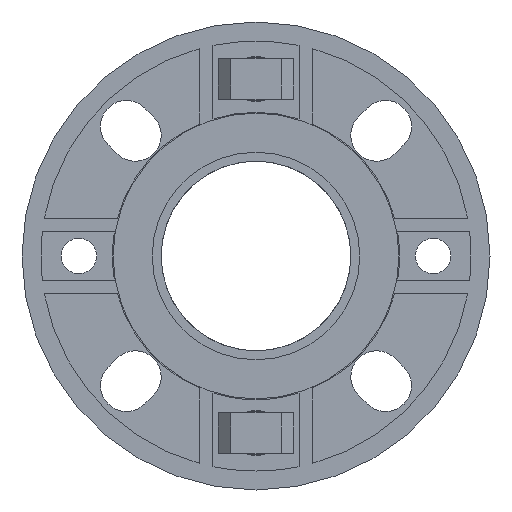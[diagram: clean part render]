
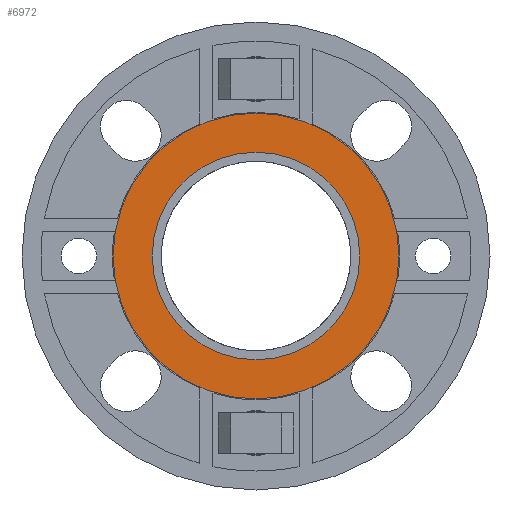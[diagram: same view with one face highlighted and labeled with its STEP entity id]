
A CAD part, front view. The second image highlights one B-rep face of the part: STEP entity #6972.
In plain terms, the highlighted planar face has unit normal (0, -1, 0).
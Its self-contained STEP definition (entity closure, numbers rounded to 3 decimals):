
#44 = CARTESIAN_POINT ( 'NONE',  ( 0., -3., -56.5 ) ) ;
#182 = CIRCLE ( 'NONE', #322, 56.5 ) ;
#322 = AXIS2_PLACEMENT_3D ( 'NONE', #1861, #8779, #8001 ) ;
#561 = CIRCLE ( 'NONE', #5618, 41. ) ;
#681 = AXIS2_PLACEMENT_3D ( 'NONE', #2300, #2925, #5814 ) ;
#868 = ORIENTED_EDGE ( 'NONE', *, *, #3961, .T. ) ;
#1105 = FACE_OUTER_BOUND ( 'NONE', #5790, .T. ) ;
#1153 = EDGE_CURVE ( 'Defeatured_0_108+Defeatured_0_138+Defeatured_0_138+Defeatured_0_138', #5163, #1234, #2111, .T. ) ;
#1234 = VERTEX_POINT ( 'NONE', #6016 ) ;
#1861 = CARTESIAN_POINT ( 'NONE',  ( 0., -3., 0. ) ) ;
#1895 = EDGE_CURVE ( 'Defeatured_0_109+Defeatured_0_108+Defeatured_0_108+Defeatured_0_108', #8468, #6299, #6449, .T. ) ;
#2111 = CIRCLE ( 'NONE', #3404, 41. ) ;
#2235 = DIRECTION ( 'NONE',  ( 0., 0., 1. ) ) ;
#2300 = CARTESIAN_POINT ( 'NONE',  ( 0., -3., 0. ) ) ;
#2549 = CARTESIAN_POINT ( 'NONE',  ( 0., -3., 0. ) ) ;
#2719 = CARTESIAN_POINT ( 'NONE',  ( 0., -3., 56.5 ) ) ;
#2917 = EDGE_LOOP ( 'NONE', ( #868, #4429 ) ) ;
#2925 = DIRECTION ( 'NONE',  ( 0., 1., 0. ) ) ;
#2991 = ORIENTED_EDGE ( 'NONE', *, *, #1895, .F. ) ;
#3246 = DIRECTION ( 'NONE',  ( 0., 1., 0. ) ) ;
#3404 = AXIS2_PLACEMENT_3D ( 'NONE', #6149, #3246, #6645 ) ;
#3961 = EDGE_CURVE ( 'Defeatured_0_108+Defeatured_0_138+Defeatured_0_138+Defeatured_0_138', #1234, #5163, #561, .T. ) ;
#4053 = CARTESIAN_POINT ( 'NONE',  ( 0., -3., 41. ) ) ;
#4429 = ORIENTED_EDGE ( 'NONE', *, *, #1153, .T. ) ;
#4650 = EDGE_CURVE ( 'Defeatured_0_109+Defeatured_0_108+Defeatured_0_108+Defeatured_0_108', #6299, #8468, #182, .T. ) ;
#5163 = VERTEX_POINT ( 'NONE', #4053 ) ;
#5618 = AXIS2_PLACEMENT_3D ( 'NONE', #7795, #5632, #2235 ) ;
#5632 = DIRECTION ( 'NONE',  ( 0., 1., 0. ) ) ;
#5790 = EDGE_LOOP ( 'NONE', ( #7654, #2991 ) ) ;
#5814 = DIRECTION ( 'NONE',  ( 0., 0., 1. ) ) ;
#6016 = CARTESIAN_POINT ( 'NONE',  ( 0., -3., -41. ) ) ;
#6149 = CARTESIAN_POINT ( 'NONE',  ( 0., -3., 0. ) ) ;
#6171 = DIRECTION ( 'NONE',  ( 0., 0., 1. ) ) ;
#6299 = VERTEX_POINT ( 'NONE', #44 ) ;
#6449 = CIRCLE ( 'NONE', #681, 56.5 ) ;
#6645 = DIRECTION ( 'NONE',  ( 0., 0., 1. ) ) ;
#6972 = ADVANCED_FACE ( 'Defeatured_0_108', ( #7285, #1105 ), #8744, .F. ) ;
#7011 = AXIS2_PLACEMENT_3D ( 'NONE', #2549, #7565, #6171 ) ;
#7285 = FACE_BOUND ( 'NONE', #2917, .T. ) ;
#7565 = DIRECTION ( 'NONE',  ( 0., 1., 0. ) ) ;
#7654 = ORIENTED_EDGE ( 'NONE', *, *, #4650, .F. ) ;
#7795 = CARTESIAN_POINT ( 'NONE',  ( 0., -3., 0. ) ) ;
#8001 = DIRECTION ( 'NONE',  ( 0., 0., 1. ) ) ;
#8468 = VERTEX_POINT ( 'NONE', #2719 ) ;
#8744 = PLANE ( 'NONE',  #7011 ) ;
#8779 = DIRECTION ( 'NONE',  ( 0., 1., 0. ) ) ;
